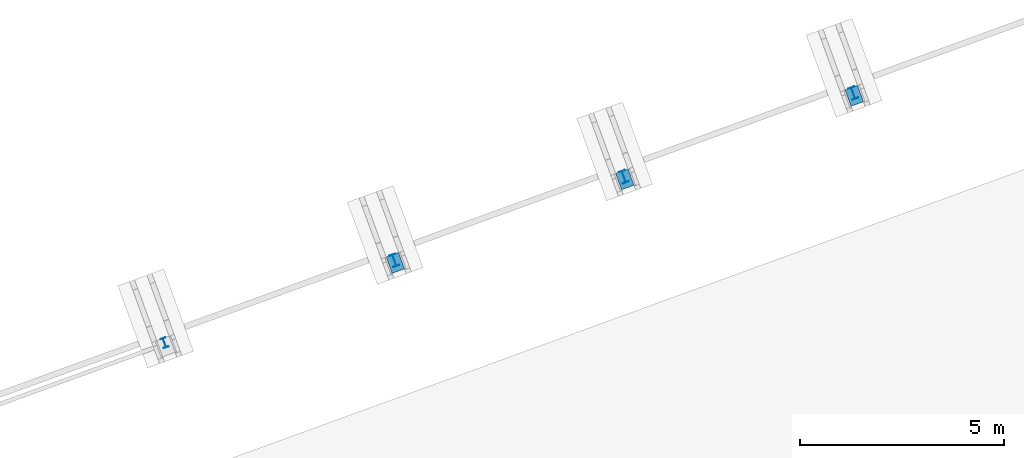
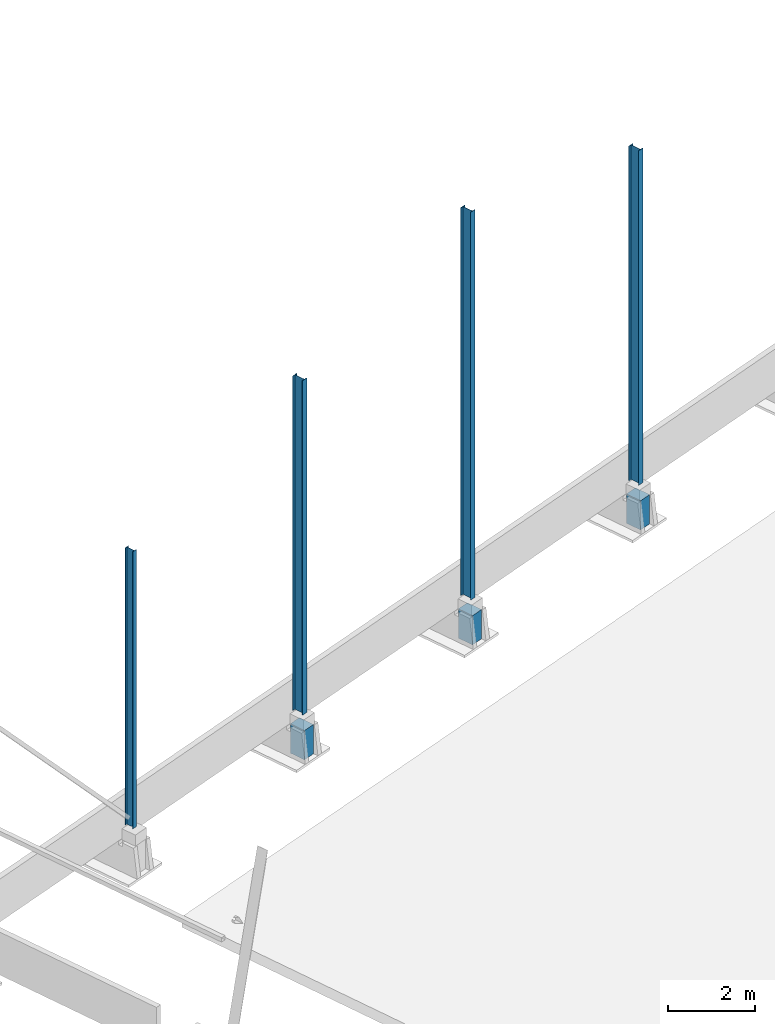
# One storey, part 4 of 20: 7 columns, 7 elements without a shape of their own.
"""IFC4 building model written with IfcOpenShell, lengths in millimetres."""

from ifc_helpers import new_model, si_unit, direction, frame, origin_with_axes, place, context, subcontext, project, spatial, line, indexed_curve, outline, extrude, material, element, aggregate, save


model = new_model("IFC4")

# Units and contexts
model_context = context("Model", 3, precision=0.2, world=frame((203566.813, 116264.779, 0.0), z_axis=(0.0, 0.0, 1.0), x_axis=(1.0, 0.0, 0.0)), true_north=direction((-0.9396138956, -0.3422363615)))
body_context = subcontext(model_context, "Body", "Model", "MODEL_VIEW")
ifc_project = project(units=[si_unit("LENGTHUNIT", "METRE", prefix="MILLI"), si_unit("AREAUNIT", "SQUARE_METRE"), si_unit("VOLUMEUNIT", "CUBIC_METRE"), si_unit("MASSUNIT", "GRAM", prefix="KILO"), si_unit("TIMEUNIT", "SECOND"), si_unit("PLANEANGLEUNIT", "RADIAN"), si_unit("SOLIDANGLEUNIT", "STERADIAN"), si_unit("THERMODYNAMICTEMPERATUREUNIT", "DEGREE_CELSIUS"), si_unit("LUMINOUSINTENSITYUNIT", "LUMEN")], contexts=[model_context])

# Site, building, storey
site_placement = place(None, origin_with_axes())
site = spatial("IfcSite", under=ifc_project, at=site_placement, Name="Nobelprojektet", CompositionType="ELEMENT")
building_placement = place(site_placement, origin_with_axes())
building = spatial("IfcBuilding", under=site, at=building_placement, Name="Hall B", CompositionType="ELEMENT")
storey_placement = place(building_placement, frame((0.0, 0.0, 1000.0), z_axis=(0.0, 0.0, 1.0), x_axis=(1.0, 0.0, 0.0)))
storey = spatial("IfcBuildingStorey", under=building, at=storey_placement, Name="Plan_1", CompositionType="ELEMENT", Elevation=1000.0)

# Assembly, column
assembly_1_placement = place(storey_placement, frame((150961.15754, 181801.29432, 131049.99996), z_axis=(0.9396136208, 0.3422371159, 0.0), x_axis=(0.0, 0.0, 1.0)))
assembly_1 = element("IfcElementAssembly", 1, at=assembly_1_placement, inside=storey, Name="BEF. GRUND", PredefinedType="NOTDEFINED")
ifc_material_1 = material(Name="C25/30", Category="CONCRETE")
column_1_placement = place(assembly_1_placement, origin_with_axes())
column_1 = element("IfcColumn", 2, at=column_1_placement, material=ifc_material_1, Name="BEF. GRUND", PredefinedType="NOTDEFINED", context=body_context, shape_type="SolidModel", body=[
    extrude(outline(indexed_curve([(-162.0, -212.5), (162.0, -212.5), (162.0, 212.5), (-162.0, 212.5)], segments=[line(1, 2, 3, 4, 1)])), frame((0.0, 0.0, 0.0), z_axis=(-1.0, 0.0, 0.0), x_axis=(0.0, 0.0, 1.0)), (0.0, 0.0, -1.0), 820.0),
])
aggregate(assembly_1, [column_1])

assembly_2_placement = place(storey_placement, frame((145323.47581, 179747.87163, 131049.99996), z_axis=(0.9396136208, 0.3422371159, 0.0), x_axis=(0.0, 0.0, 1.0)))
assembly_2 = element("IfcElementAssembly", 3, at=assembly_2_placement, inside=storey, Name="BEF. GRUND", PredefinedType="NOTDEFINED")
column_2_placement = place(assembly_2_placement, origin_with_axes())
column_2 = element("IfcColumn", 4, at=column_2_placement, material=ifc_material_1, Name="BEF. GRUND", PredefinedType="NOTDEFINED", context=body_context, shape_type="SolidModel", body=[
    extrude(outline(indexed_curve([(-162.0, -212.5), (162.0, -212.5), (162.0, 212.5), (-162.0, 212.5)], segments=[line(1, 2, 3, 4, 1)])), frame((0.0, 0.0, 0.0), z_axis=(-1.0, 0.0, 0.0), x_axis=(0.0, 0.0, 1.0)), (0.0, 0.0, -1.0), 820.0),
])
aggregate(assembly_2, [column_2])

assembly_3_placement = place(storey_placement, frame((139685.79409, 177694.44893, 131049.99996), z_axis=(0.9396136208, 0.3422371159, 0.0), x_axis=(0.0, 0.0, 1.0)))
assembly_3 = element("IfcElementAssembly", 5, at=assembly_3_placement, inside=storey, Name="BEF. GRUND", PredefinedType="NOTDEFINED")
column_3_placement = place(assembly_3_placement, origin_with_axes())
column_3 = element("IfcColumn", 6, at=column_3_placement, material=ifc_material_1, Name="BEF. GRUND", PredefinedType="NOTDEFINED", context=body_context, shape_type="SolidModel", body=[
    extrude(outline(indexed_curve([(-162.0, -212.5), (162.0, -212.5), (162.0, 212.5), (-162.0, 212.5)], segments=[line(1, 2, 3, 4, 1)])), frame((0.0, 0.0, 0.0), z_axis=(-1.0, 0.0, 0.0), x_axis=(0.0, 0.0, 1.0)), (0.0, 0.0, -1.0), 820.0),
])
aggregate(assembly_3, [column_3])

assembly_4_placement = place(storey_placement, frame((134014.73975, 175732.65165, 132195.00293), z_axis=(-0.9396136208, -0.3422371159, 0.0), x_axis=(0.0, 0.0, 1.0)))
assembly_4 = element("IfcElementAssembly", 7, at=assembly_4_placement, inside=storey, Name="BEF. STOMME", PredefinedType="NOTDEFINED")
ifc_material_2 = material(Name="S355J2", Category="STEEL")
column_4_placement = place(assembly_4_placement, origin_with_axes())
column_4 = element("IfcColumn", 8, at=column_4_placement, material=ifc_material_2, Name="BEF. STOMME", PredefinedType="NOTDEFINED", context=body_context, shape_type="SolidModel", body=[
    extrude(outline(indexed_curve([(-60.0, -120.0), (60.0, -120.0), (60.0, -110.2), (3.1, -110.2), (3.1, 110.2), (60.0, 110.2), (60.0, 120.0), (-60.0, 120.0), (-60.0, 110.2), (-3.1, 110.2), (-3.1, -110.2), (-60.0, -110.2)], segments=[line(1, 2, 3, 4, 5, 6, 7, 8, 9, 10, 11, 12, 1)])), frame((0.0, 0.0, 0.0), z_axis=(-1.0, 0.0, 0.0), x_axis=(0.0, 0.0, 1.0)), (0.0, 0.0, -1.0), 7762.25281),
])
aggregate(assembly_4, [column_4])

assembly_5_placement = place(storey_placement, frame((139662.69576, 177757.88855, 132195.00293), z_axis=(-0.9396136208, -0.3422371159, 0.0), x_axis=(0.0, 0.0, 1.0)))
assembly_5 = element("IfcElementAssembly", 9, at=assembly_5_placement, inside=storey, Name="BEF. STOMME", PredefinedType="NOTDEFINED")
column_5_placement = place(assembly_5_placement, origin_with_axes())
column_5 = element("IfcColumn", 10, at=column_5_placement, material=ifc_material_2, Name="BEF. STOMME", PredefinedType="NOTDEFINED", context=body_context, shape_type="SolidModel", body=[
    extrude(outline(indexed_curve([(-75.0, -150.0), (75.0, -150.0), (75.0, -139.3), (3.55, -139.3), (3.55, 139.3), (75.0, 139.3), (75.0, 150.0), (-75.0, 150.0), (-75.0, 139.3), (-3.55, 139.3), (-3.55, -139.3), (-75.0, -139.3)], segments=[line(1, 2, 3, 4, 5, 6, 7, 8, 9, 10, 11, 12, 1)])), frame((0.0, 0.0, 0.0), z_axis=(-1.0, 0.0, 0.0), x_axis=(0.0, 0.0, 1.0)), (0.0, 0.0, -1.0), 9369.94934),
])
aggregate(assembly_5, [column_5])

assembly_6_placement = place(storey_placement, frame((145300.37748, 179811.31124, 132195.00293), z_axis=(-0.9396136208, -0.3422371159, 0.0), x_axis=(0.0, 0.0, 1.0)))
assembly_6 = element("IfcElementAssembly", 11, at=assembly_6_placement, inside=storey, Name="BEF. STOMME", PredefinedType="NOTDEFINED")
column_6_placement = place(assembly_6_placement, origin_with_axes())
column_6 = element("IfcColumn", 12, at=column_6_placement, material=ifc_material_2, Name="BEF. STOMME", PredefinedType="NOTDEFINED", context=body_context, shape_type="SolidModel", body=[
    extrude(outline(indexed_curve([(-75.0, -150.0), (75.0, -150.0), (75.0, -139.3), (3.55, -139.3), (3.55, 139.3), (75.0, 139.3), (75.0, 150.0), (-75.0, 150.0), (-75.0, 139.3), (-3.55, 139.3), (-3.55, -139.3), (-75.0, -139.3)], segments=[line(1, 2, 3, 4, 5, 6, 7, 8, 9, 10, 11, 12, 1)])), frame((0.0, 0.0, 0.0), z_axis=(-1.0, 0.0, 0.0), x_axis=(0.0, 0.0, 1.0)), (0.0, 0.0, -1.0), 10863.20934),
])
aggregate(assembly_6, [column_6])

assembly_7_placement = place(storey_placement, frame((150938.05921, 181864.73394, 132195.00293), z_axis=(-0.9396136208, -0.3422371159, 0.0), x_axis=(0.0, 0.0, 1.0)))
assembly_7 = element("IfcElementAssembly", 13, at=assembly_7_placement, inside=storey, Name="BEF. STOMME", PredefinedType="NOTDEFINED")
column_7_placement = place(assembly_7_placement, origin_with_axes())
column_7 = element("IfcColumn", 14, at=column_7_placement, material=ifc_material_2, Name="BEF. STOMME", PredefinedType="NOTDEFINED", context=body_context, shape_type="SolidModel", body=[
    extrude(outline(indexed_curve([(-75.0, -150.0), (75.0, -150.0), (75.0, -139.3), (3.55, -139.3), (3.55, 139.3), (75.0, 139.3), (75.0, 150.0), (-75.0, 150.0), (-75.0, 139.3), (-3.55, 139.3), (-3.55, -139.3), (-75.0, -139.3)], segments=[line(1, 2, 3, 4, 5, 6, 7, 8, 9, 10, 11, 12, 1)])), frame((0.0, 0.0, 0.0), z_axis=(-1.0, 0.0, 0.0), x_axis=(0.0, 0.0, 1.0)), (0.0, 0.0, -1.0), 9369.94934),
])
aggregate(assembly_7, [column_7])

save(model, "model.ifc")
